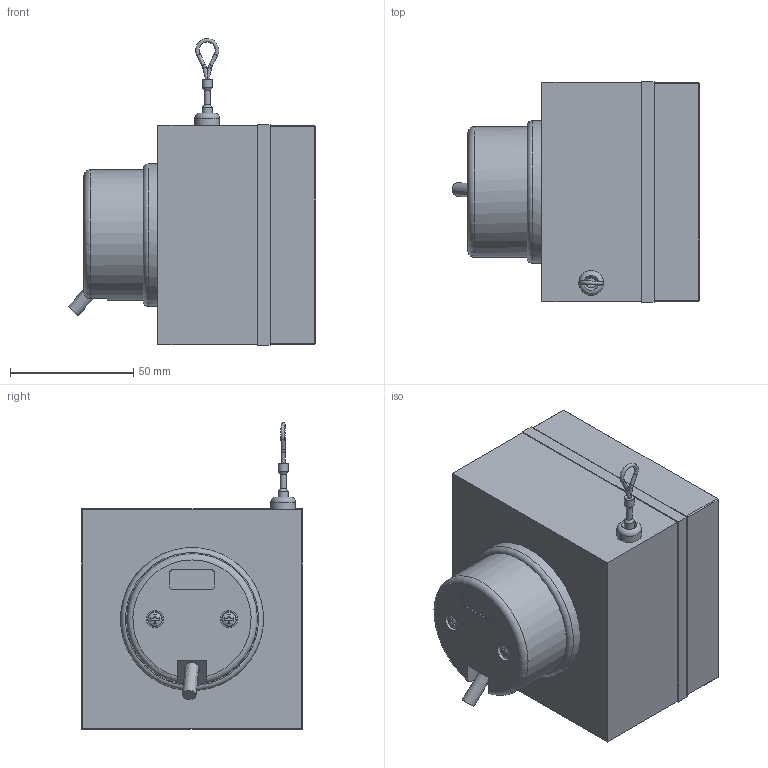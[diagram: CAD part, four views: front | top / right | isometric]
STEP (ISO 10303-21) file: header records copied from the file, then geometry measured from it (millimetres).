
FILE_DESCRIPTION( ( 'Unknown' ), '1' );
FILE_NAME( 'C:/Users/malfermoa/Desktop/step/FE_4000_EH30.stp', 'Unknown', ( 'Unknown' ), ( 'Unknown' ), 'PSStep 15.0.49', 'Unknown', ' ' );
FILE_SCHEMA( ( 'AUTOMOTIVE_DESIGN { 1 0 10303 214 1 1 1 1 }' ) );
Length unit declared in the file: millimetre
Products named in the file (1): cappio FE
Bounding box: 100.32 x 89.5 x 124.51 mm (x, y, z)
Volume: 230402.8 mm3; surface area: 98925.2 mm2
Topology: 1 solids, 8 shells, 321 faces, 735 edges, 489 vertices
Faces by surface type: plane 176, cylinder 109, torus 16, cone 14, bspline 6
Full cylindrical faces by diameter (mm): 1.5 x4, 2.05 x2, 2.353 x1, 2.5 x10, 2.733 x1, 3 x2, 3.2 x4, 3.3 x2, 3.5 x2, 4 x4, 4.2 x4, 4.3 x2, 4.5 x2, 4.9 x1, 5 x8, 6 x10, 7 x4, 7.4 x2, 9 x2, 10 x1, 11 x1, 24 x1, 34 x1, 35 x1, 49 x1, 53 x1, 54 x1, 58 x1
Entity records: 13698 total; most frequent: CARTESIAN_POINT 4569, DIRECTION 1363, ORIENTED_EDGE 1134, EDGE_CURVE 567, AXIS2_PLACEMENT_3D 545, EDGE_LOOP 500, VERTEX_POINT 431, FACE_OUTER_BOUND 414
